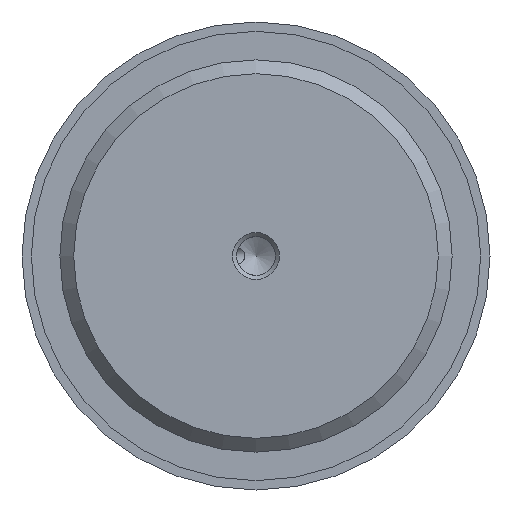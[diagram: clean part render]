
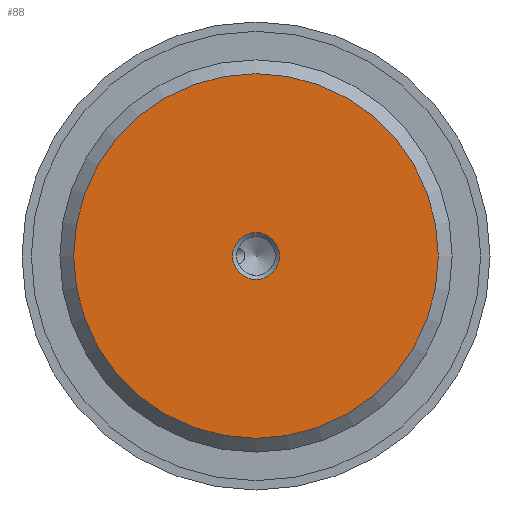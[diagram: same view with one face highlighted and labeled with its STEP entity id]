
A CAD part, front view. The second image highlights one B-rep face of the part: STEP entity #88.
In plain terms, the highlighted planar face has unit normal (0, -1, 0).
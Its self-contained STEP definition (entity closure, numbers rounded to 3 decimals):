
#88 = ADVANCED_FACE( '', ( #136, #137 ), #138, .F. );
#136 = FACE_BOUND( '', #202, .T. );
#137 = FACE_OUTER_BOUND( '', #203, .T. );
#138 = PLANE( '', #204 );
#202 = EDGE_LOOP( '', ( #316 ) );
#203 = EDGE_LOOP( '', ( #317 ) );
#204 = AXIS2_PLACEMENT_3D( '', #318, #319, #320 );
#316 = ORIENTED_EDGE( '', *, *, #434, .F. );
#317 = ORIENTED_EDGE( '', *, *, #435, .T. );
#318 = CARTESIAN_POINT( '', ( 19.476, 0., 0. ) );
#319 = DIRECTION( '', ( 0., 1., 0. ) );
#320 = DIRECTION( '', ( 0., 0., 1. ) );
#434 = EDGE_CURVE( '', #503, #503, #504, .T. );
#435 = EDGE_CURVE( '', #505, #505, #506, .T. );
#503 = VERTEX_POINT( '', #706 );
#504 = CIRCLE( '', #707, 2.5 );
#505 = VERTEX_POINT( '', #708 );
#506 = CIRCLE( '', #709, 19.476 );
#706 = CARTESIAN_POINT( '', ( 2.5, 0., 0. ) );
#707 = AXIS2_PLACEMENT_3D( '', #786, #787, #788 );
#708 = CARTESIAN_POINT( '', ( 0., 0., -19.476 ) );
#709 = AXIS2_PLACEMENT_3D( '', #789, #790, #791 );
#786 = CARTESIAN_POINT( '', ( 0., 0., 0. ) );
#787 = DIRECTION( '', ( 0., -1., 0. ) );
#788 = DIRECTION( '', ( 1., 0., 0. ) );
#789 = CARTESIAN_POINT( '', ( 0., 0., 0. ) );
#790 = DIRECTION( '', ( 0., -1., 0. ) );
#791 = DIRECTION( '', ( 0., 0., -1. ) );
